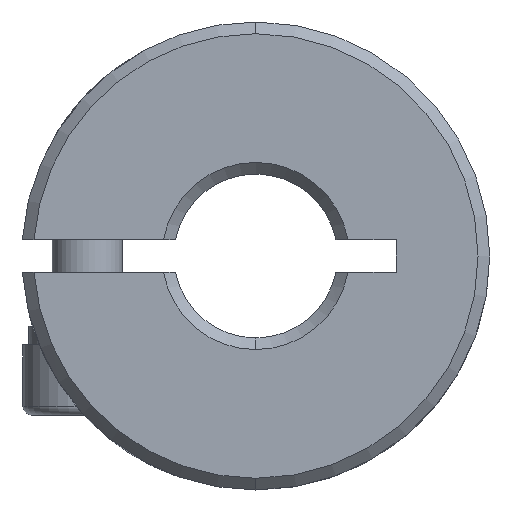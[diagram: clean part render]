
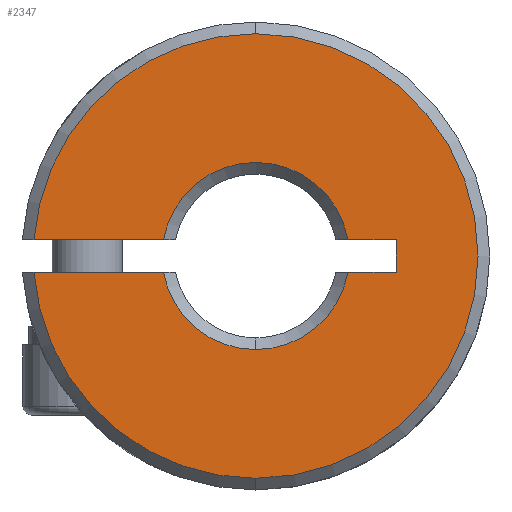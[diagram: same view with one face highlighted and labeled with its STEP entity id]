
A CAD part, front view. The second image highlights one B-rep face of the part: STEP entity #2347.
In plain terms, the highlighted planar face has unit normal (0, -1, 0).
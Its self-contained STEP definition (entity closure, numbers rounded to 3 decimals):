
#6 = DIRECTION ( 'NONE',  ( 0., 0., 1. ) ) ;
#116 = CARTESIAN_POINT ( 'NONE',  ( 6., 0.25, -0.7 ) ) ;
#131 = AXIS2_PLACEMENT_3D ( 'NONE', #673, #647, #2992 ) ;
#148 = LINE ( 'NONE', #2381, #2290 ) ;
#225 = CARTESIAN_POINT ( 'NONE',  ( 6., 0.25, -0.7 ) ) ;
#237 = LINE ( 'NONE', #1449, #2859 ) ;
#255 = DIRECTION ( 'NONE',  ( -1., 0., 0. ) ) ;
#282 = DIRECTION ( 'NONE',  ( -1., 0., 0. ) ) ;
#288 = FACE_OUTER_BOUND ( 'NONE', #2845, .T. ) ;
#318 = CARTESIAN_POINT ( 'NONE',  ( -3.938, 0.25, 0.7 ) ) ;
#341 = AXIS2_PLACEMENT_3D ( 'NONE', #3534, #1225, #2975 ) ;
#403 = ORIENTED_EDGE ( 'NONE', *, *, #2312, .T. ) ;
#418 = CARTESIAN_POINT ( 'NONE',  ( 0., 0.25, -9.5 ) ) ;
#446 = EDGE_CURVE ( 'NONE', #1283, #3744, #2302, .T. ) ;
#478 = CARTESIAN_POINT ( 'NONE',  ( 6., 0.25, -0.7 ) ) ;
#508 = EDGE_CURVE ( 'NONE', #1572, #2693, #1560, .T. ) ;
#523 = AXIS2_PLACEMENT_3D ( 'NONE', #1167, #895, #1469 ) ;
#555 = LINE ( 'NONE', #478, #3461 ) ;
#625 = EDGE_CURVE ( 'NONE', #1325, #1283, #1331, .T. ) ;
#634 = ORIENTED_EDGE ( 'NONE', *, *, #2482, .T. ) ;
#647 = DIRECTION ( 'NONE',  ( 0., 1., 0. ) ) ;
#655 = ORIENTED_EDGE ( 'NONE', *, *, #446, .T. ) ;
#673 = CARTESIAN_POINT ( 'NONE',  ( 0., 0.25, 0. ) ) ;
#776 = DIRECTION ( 'NONE',  ( 1., 0., 0. ) ) ;
#849 = CARTESIAN_POINT ( 'NONE',  ( 0., 0.25, 0. ) ) ;
#877 = CARTESIAN_POINT ( 'NONE',  ( 0., 0.25, 0. ) ) ;
#884 = CARTESIAN_POINT ( 'NONE',  ( -3.938, 0.25, -0.7 ) ) ;
#895 = DIRECTION ( 'NONE',  ( 0., 1., 0. ) ) ;
#1040 = CARTESIAN_POINT ( 'NONE',  ( 0., 0.25, 9.5 ) ) ;
#1072 = EDGE_CURVE ( 'NONE', #1325, #3413, #3010, .T. ) ;
#1111 = DIRECTION ( 'NONE',  ( 0., 1., 0. ) ) ;
#1162 = CARTESIAN_POINT ( 'NONE',  ( 3.938, 0.25, 0.7 ) ) ;
#1167 = CARTESIAN_POINT ( 'NONE',  ( -50., 0.25, 12. ) ) ;
#1225 = DIRECTION ( 'NONE',  ( 0., 1., 0. ) ) ;
#1283 = VERTEX_POINT ( 'NONE', #418 ) ;
#1299 = ORIENTED_EDGE ( 'NONE', *, *, #508, .T. ) ;
#1325 = VERTEX_POINT ( 'NONE', #1382 ) ;
#1331 = CIRCLE ( 'NONE', #1410, 9.5 ) ;
#1336 = CARTESIAN_POINT ( 'NONE',  ( 0., 0.25, 0. ) ) ;
#1368 = AXIS2_PLACEMENT_3D ( 'NONE', #849, #3202, #2041 ) ;
#1382 = CARTESIAN_POINT ( 'NONE',  ( -9.474, 0.25, -0.7 ) ) ;
#1410 = AXIS2_PLACEMENT_3D ( 'NONE', #1336, #2763, #2222 ) ;
#1442 = ORIENTED_EDGE ( 'NONE', *, *, #2676, .F. ) ;
#1449 = CARTESIAN_POINT ( 'NONE',  ( 6., 0.25, 0.7 ) ) ;
#1451 = DIRECTION ( 'NONE',  ( 0., -1., 0. ) ) ;
#1469 = DIRECTION ( 'NONE',  ( 0., 0., 1. ) ) ;
#1491 = ORIENTED_EDGE ( 'NONE', *, *, #1841, .T. ) ;
#1560 = CIRCLE ( 'NONE', #131, 4. ) ;
#1572 = VERTEX_POINT ( 'NONE', #3292 ) ;
#1673 = EDGE_CURVE ( 'NONE', #1572, #3275, #555, .T. ) ;
#1686 = ORIENTED_EDGE ( 'NONE', *, *, #625, .T. ) ;
#1752 = CARTESIAN_POINT ( 'NONE',  ( 0., 0.25, -4. ) ) ;
#1786 = CIRCLE ( 'NONE', #341, 4. ) ;
#1814 = DIRECTION ( 'NONE',  ( 0., 0., 1. ) ) ;
#1836 = CIRCLE ( 'NONE', #2036, 4. ) ;
#1841 = EDGE_CURVE ( 'NONE', #3744, #2338, #1935, .T. ) ;
#1861 = VERTEX_POINT ( 'NONE', #1162 ) ;
#1907 = VERTEX_POINT ( 'NONE', #318 ) ;
#1935 = CIRCLE ( 'NONE', #1368, 9.5 ) ;
#2036 = AXIS2_PLACEMENT_3D ( 'NONE', #3469, #1111, #3442 ) ;
#2037 = VERTEX_POINT ( 'NONE', #2434 ) ;
#2041 = DIRECTION ( 'NONE',  ( 0., 0., 1. ) ) ;
#2157 = DIRECTION ( 'NONE',  ( 1., 0., 0. ) ) ;
#2222 = DIRECTION ( 'NONE',  ( 0., 0., 1. ) ) ;
#2251 = VECTOR ( 'NONE', #2157, 1000. ) ;
#2290 = VECTOR ( 'NONE', #1814, 1000. ) ;
#2301 = CARTESIAN_POINT ( 'NONE',  ( -9.474, 0.25, 0.7 ) ) ;
#2302 = CIRCLE ( 'NONE', #3316, 9.5 ) ;
#2312 = EDGE_CURVE ( 'NONE', #2693, #3413, #1836, .T. ) ;
#2338 = VERTEX_POINT ( 'NONE', #2301 ) ;
#2347 = ADVANCED_FACE ( 'NONE', ( #288 ), #3144, .F. ) ;
#2381 = CARTESIAN_POINT ( 'NONE',  ( 6., 0.25, 0.7 ) ) ;
#2417 = VECTOR ( 'NONE', #255, 1000. ) ;
#2434 = CARTESIAN_POINT ( 'NONE',  ( 6., 0.25, 0.7 ) ) ;
#2455 = ORIENTED_EDGE ( 'NONE', *, *, #3301, .F. ) ;
#2482 = EDGE_CURVE ( 'NONE', #1907, #1861, #1786, .T. ) ;
#2543 = EDGE_CURVE ( 'NONE', #3275, #2037, #148, .T. ) ;
#2676 = EDGE_CURVE ( 'NONE', #1907, #2338, #237, .T. ) ;
#2693 = VERTEX_POINT ( 'NONE', #1752 ) ;
#2763 = DIRECTION ( 'NONE',  ( 0., -1., 0. ) ) ;
#2809 = LINE ( 'NONE', #3147, #2417 ) ;
#2845 = EDGE_LOOP ( 'NONE', ( #3177, #1686, #655, #1491, #1442, #634, #2455, #2926, #3391, #1299, #403 ) ) ;
#2859 = VECTOR ( 'NONE', #282, 1000. ) ;
#2926 = ORIENTED_EDGE ( 'NONE', *, *, #2543, .F. ) ;
#2975 = DIRECTION ( 'NONE',  ( 0., 0., 1. ) ) ;
#2992 = DIRECTION ( 'NONE',  ( 0., 0., 1. ) ) ;
#3010 = LINE ( 'NONE', #116, #2251 ) ;
#3144 = PLANE ( 'NONE',  #523 ) ;
#3147 = CARTESIAN_POINT ( 'NONE',  ( 6., 0.25, 0.7 ) ) ;
#3177 = ORIENTED_EDGE ( 'NONE', *, *, #1072, .F. ) ;
#3202 = DIRECTION ( 'NONE',  ( 0., -1., 0. ) ) ;
#3275 = VERTEX_POINT ( 'NONE', #225 ) ;
#3292 = CARTESIAN_POINT ( 'NONE',  ( 3.938, 0.25, -0.7 ) ) ;
#3301 = EDGE_CURVE ( 'NONE', #2037, #1861, #2809, .T. ) ;
#3316 = AXIS2_PLACEMENT_3D ( 'NONE', #877, #1451, #6 ) ;
#3391 = ORIENTED_EDGE ( 'NONE', *, *, #1673, .F. ) ;
#3413 = VERTEX_POINT ( 'NONE', #884 ) ;
#3442 = DIRECTION ( 'NONE',  ( 0., 0., 1. ) ) ;
#3461 = VECTOR ( 'NONE', #776, 1000. ) ;
#3469 = CARTESIAN_POINT ( 'NONE',  ( 0., 0.25, 0. ) ) ;
#3534 = CARTESIAN_POINT ( 'NONE',  ( 0., 0.25, 0. ) ) ;
#3744 = VERTEX_POINT ( 'NONE', #1040 ) ;
